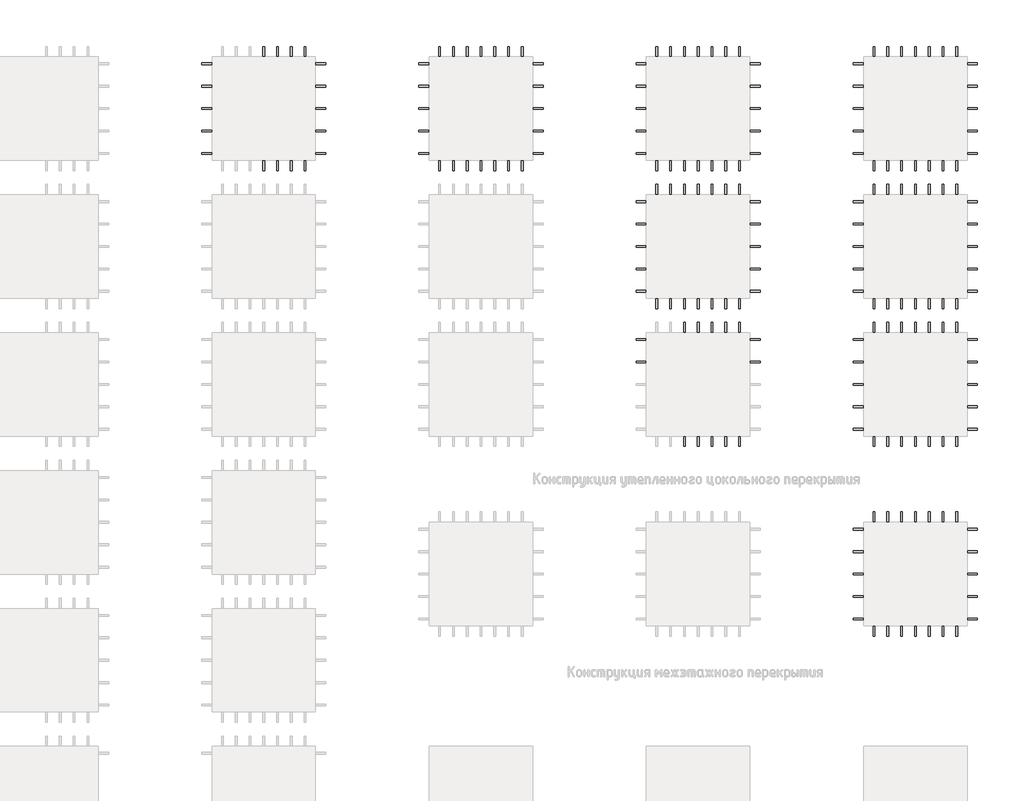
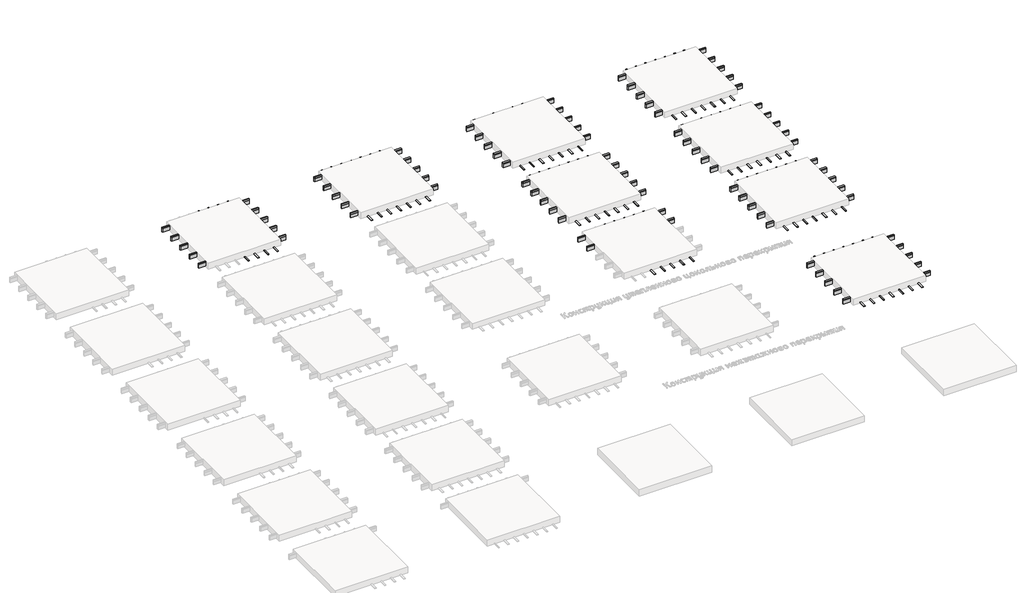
# One storey, part 6 of 42: 142 beams.
"""IFC4 building model written with IfcOpenShell, lengths in millimetres."""

from ifc_helpers import new_model, si_unit, origin, place, context, project, spatial, transform, mapped, element, save
from components import beam_10aa4ee0, beam_54a566a4, beam_d9e12bf5

model = new_model("IFC4")

# Units and contexts
model_context = context("Model", 3, world=origin())
ifc_project = project(units=[si_unit("LENGTHUNIT", "METRE", prefix="MILLI")], contexts=[model_context])

# Site, building, storey
site = spatial("IfcSite", under=ifc_project)
building = spatial("IfcBuilding", under=site)
storey = spatial("IfcBuildingStorey", under=building, Name="Этаж 01", Elevation=0.0)

# Beams
placement = place(None, origin())
beam_shape = beam_10aa4ee0(model_context)
element("IfcBeam", 1, ObjectType="Деревянный брус : 50х150", at=placement, inside=storey, context=model_context, shape_type="MappedRepresentation", body=[
    mapped(beam_shape, transform((67113.2067679, -37226.7844763, -151.0), x_axis=(-1.0, 0.0, 0.0), y_axis=(0.0, -1.0, 0.0), z_axis=(0.0, 0.0, 1.0))),
])
element("IfcBeam", 2, ObjectType="Деревянный брус : 50х150", at=placement, inside=storey, context=model_context, shape_type="MappedRepresentation", body=[
    mapped(beam_shape, transform((67113.2067679, -36576.7844763, -151.0), x_axis=(-1.0, 0.0, 0.0), y_axis=(0.0, -1.0, 0.0), z_axis=(0.0, 0.0, 1.0))),
])
element("IfcBeam", 3, ObjectType="Деревянный брус : 50х150", at=placement, inside=storey, context=model_context, shape_type="MappedRepresentation", body=[
    mapped(beam_shape, transform((67113.2067679, -35926.7844763, -151.0), x_axis=(-1.0, 0.0, 0.0), y_axis=(0.0, -1.0, 0.0), z_axis=(0.0, 0.0, 1.0))),
])
element("IfcBeam", 4, ObjectType="Деревянный брус : 50х150", at=placement, inside=storey, context=model_context, shape_type="MappedRepresentation", body=[
    mapped(beam_shape, transform((67113.2067679, -35276.7844763, -151.0), x_axis=(-1.0, 0.0, 0.0), y_axis=(0.0, -1.0, 0.0), z_axis=(0.0, 0.0, 1.0))),
])
element("IfcBeam", 5, ObjectType="Деревянный брус : 50х150", at=placement, inside=storey, context=model_context, shape_type="MappedRepresentation", body=[
    mapped(beam_shape, transform((67113.2067679, -34626.7844763, -151.0), x_axis=(-1.0, 0.0, 0.0), y_axis=(0.0, -1.0, 0.0), z_axis=(0.0, 0.0, 1.0))),
])
element("IfcBeam", 6, ObjectType="Деревянный брус : 50х150", at=placement, inside=storey, context=model_context, shape_type="MappedRepresentation", body=[
    mapped(beam_shape, transform((48213.2067679, -23726.7844763, -151.0), x_axis=(-1.0, 0.0, 0.0), y_axis=(0.0, -1.0, 0.0), z_axis=(0.0, 0.0, 1.0))),
])
element("IfcBeam", 7, ObjectType="Деревянный брус : 50х150", at=placement, inside=storey, context=model_context, shape_type="MappedRepresentation", body=[
    mapped(beam_shape, transform((48213.2067679, -23076.7844763, -151.0), x_axis=(-1.0, 0.0, 0.0), y_axis=(0.0, -1.0, 0.0), z_axis=(0.0, 0.0, 1.0))),
])
element("IfcBeam", 8, ObjectType="Деревянный брус : 50х150", at=placement, inside=storey, context=model_context, shape_type="MappedRepresentation", body=[
    mapped(beam_shape, transform((48213.2067679, -22426.7844763, -151.0), x_axis=(-1.0, 0.0, 0.0), y_axis=(0.0, -1.0, 0.0), z_axis=(0.0, 0.0, 1.0))),
])
element("IfcBeam", 9, ObjectType="Деревянный брус : 50х150", at=placement, inside=storey, context=model_context, shape_type="MappedRepresentation", body=[
    mapped(beam_shape, transform((48213.2067679, -21776.7844763, -151.0), x_axis=(-1.0, 0.0, 0.0), y_axis=(0.0, -1.0, 0.0), z_axis=(0.0, 0.0, 1.0))),
])
element("IfcBeam", 10, ObjectType="Деревянный брус : 50х150", at=placement, inside=storey, context=model_context, shape_type="MappedRepresentation", body=[
    mapped(beam_shape, transform((48213.2067679, -21126.7844763, -151.0), x_axis=(-1.0, 0.0, 0.0), y_axis=(0.0, -1.0, 0.0), z_axis=(0.0, 0.0, 1.0))),
])
element("IfcBeam", 11, ObjectType="Деревянный брус : 50х150", at=placement, inside=storey, context=model_context, shape_type="MappedRepresentation", body=[
    mapped(beam_shape, transform((54513.2067679, -23726.7844763, -151.0), x_axis=(-1.0, 0.0, 0.0), y_axis=(0.0, -1.0, 0.0), z_axis=(0.0, 0.0, 1.0))),
])
element("IfcBeam", 12, ObjectType="Деревянный брус : 50х150", at=placement, inside=storey, context=model_context, shape_type="MappedRepresentation", body=[
    mapped(beam_shape, transform((54513.2067679, -23076.7844763, -151.0), x_axis=(-1.0, 0.0, 0.0), y_axis=(0.0, -1.0, 0.0), z_axis=(0.0, 0.0, 1.0))),
])
element("IfcBeam", 13, ObjectType="Деревянный брус : 50х150", at=placement, inside=storey, context=model_context, shape_type="MappedRepresentation", body=[
    mapped(beam_shape, transform((54513.2067679, -22426.7844763, -151.0), x_axis=(-1.0, 0.0, 0.0), y_axis=(0.0, -1.0, 0.0), z_axis=(0.0, 0.0, 1.0))),
])
element("IfcBeam", 14, ObjectType="Деревянный брус : 50х150", at=placement, inside=storey, context=model_context, shape_type="MappedRepresentation", body=[
    mapped(beam_shape, transform((54513.2067679, -21776.7844763, -151.0), x_axis=(-1.0, 0.0, 0.0), y_axis=(0.0, -1.0, 0.0), z_axis=(0.0, 0.0, 1.0))),
])
element("IfcBeam", 15, ObjectType="Деревянный брус : 50х150", at=placement, inside=storey, context=model_context, shape_type="MappedRepresentation", body=[
    mapped(beam_shape, transform((54513.2067679, -21126.7844763, -151.0), x_axis=(-1.0, 0.0, 0.0), y_axis=(0.0, -1.0, 0.0), z_axis=(0.0, 0.0, 1.0))),
])
element("IfcBeam", 16, ObjectType="Деревянный брус : 50х150", at=placement, inside=storey, context=model_context, shape_type="MappedRepresentation", body=[
    mapped(beam_shape, transform((60813.2067679, -29776.7844763, -151.0), x_axis=(-1.0, 0.0, 0.0), y_axis=(0.0, -1.0, 0.0), z_axis=(0.0, 0.0, 1.0))),
])
element("IfcBeam", 17, ObjectType="Деревянный брус : 50х150", at=placement, inside=storey, context=model_context, shape_type="MappedRepresentation", body=[
    mapped(beam_shape, transform((60813.2067679, -29126.7844763, -151.0), x_axis=(-1.0, 0.0, 0.0), y_axis=(0.0, -1.0, 0.0), z_axis=(0.0, 0.0, 1.0))),
])
element("IfcBeam", 18, ObjectType="Деревянный брус : 50х150", at=placement, inside=storey, context=model_context, shape_type="MappedRepresentation", body=[
    mapped(beam_shape, transform((60813.2067679, -27726.7844763, -151.0), x_axis=(-1.0, 0.0, 0.0), y_axis=(0.0, -1.0, 0.0), z_axis=(0.0, 0.0, 1.0))),
])
element("IfcBeam", 19, ObjectType="Деревянный брус : 50х150", at=placement, inside=storey, context=model_context, shape_type="MappedRepresentation", body=[
    mapped(beam_shape, transform((60813.2067679, -27076.7844763, -151.0), x_axis=(-1.0, 0.0, 0.0), y_axis=(0.0, -1.0, 0.0), z_axis=(0.0, 0.0, 1.0))),
])
element("IfcBeam", 20, ObjectType="Деревянный брус : 50х150", at=placement, inside=storey, context=model_context, shape_type="MappedRepresentation", body=[
    mapped(beam_shape, transform((60813.2067679, -26426.7844763, -151.0), x_axis=(-1.0, 0.0, 0.0), y_axis=(0.0, -1.0, 0.0), z_axis=(0.0, 0.0, 1.0))),
])
element("IfcBeam", 21, ObjectType="Деревянный брус : 50х150", at=placement, inside=storey, context=model_context, shape_type="MappedRepresentation", body=[
    mapped(beam_shape, transform((60813.2067679, -25776.7844763, -151.0), x_axis=(-1.0, 0.0, 0.0), y_axis=(0.0, -1.0, 0.0), z_axis=(0.0, 0.0, 1.0))),
])
element("IfcBeam", 22, ObjectType="Деревянный брус : 50х150", at=placement, inside=storey, context=model_context, shape_type="MappedRepresentation", body=[
    mapped(beam_shape, transform((60813.2067679, -25126.7844763, -151.0), x_axis=(-1.0, 0.0, 0.0), y_axis=(0.0, -1.0, 0.0), z_axis=(0.0, 0.0, 1.0))),
])
element("IfcBeam", 23, ObjectType="Деревянный брус : 50х150", at=placement, inside=storey, context=model_context, shape_type="MappedRepresentation", body=[
    mapped(beam_shape, transform((60813.2067679, -23726.7844763, -151.0), x_axis=(-1.0, 0.0, 0.0), y_axis=(0.0, -1.0, 0.0), z_axis=(0.0, 0.0, 1.0))),
])
element("IfcBeam", 24, ObjectType="Деревянный брус : 50х150", at=placement, inside=storey, context=model_context, shape_type="MappedRepresentation", body=[
    mapped(beam_shape, transform((60813.2067679, -23076.7844763, -151.0), x_axis=(-1.0, 0.0, 0.0), y_axis=(0.0, -1.0, 0.0), z_axis=(0.0, 0.0, 1.0))),
])
element("IfcBeam", 25, ObjectType="Деревянный брус : 50х150", at=placement, inside=storey, context=model_context, shape_type="MappedRepresentation", body=[
    mapped(beam_shape, transform((60813.2067679, -22426.7844763, -151.0), x_axis=(-1.0, 0.0, 0.0), y_axis=(0.0, -1.0, 0.0), z_axis=(0.0, 0.0, 1.0))),
])
element("IfcBeam", 26, ObjectType="Деревянный брус : 50х150", at=placement, inside=storey, context=model_context, shape_type="MappedRepresentation", body=[
    mapped(beam_shape, transform((60813.2067679, -21776.7844763, -151.0), x_axis=(-1.0, 0.0, 0.0), y_axis=(0.0, -1.0, 0.0), z_axis=(0.0, 0.0, 1.0))),
])
element("IfcBeam", 27, ObjectType="Деревянный брус : 50х150", at=placement, inside=storey, context=model_context, shape_type="MappedRepresentation", body=[
    mapped(beam_shape, transform((60813.2067679, -21126.7844763, -151.0), x_axis=(-1.0, 0.0, 0.0), y_axis=(0.0, -1.0, 0.0), z_axis=(0.0, 0.0, 1.0))),
])
element("IfcBeam", 28, ObjectType="Деревянный брус : 50х150", at=placement, inside=storey, context=model_context, shape_type="MappedRepresentation", body=[
    mapped(beam_shape, transform((67113.2067679, -31726.7844763, -151.0), x_axis=(-1.0, 0.0, 0.0), y_axis=(0.0, -1.0, 0.0), z_axis=(0.0, 0.0, 1.0))),
])
element("IfcBeam", 29, ObjectType="Деревянный брус : 50х150", at=placement, inside=storey, context=model_context, shape_type="MappedRepresentation", body=[
    mapped(beam_shape, transform((67113.2067679, -31076.7844763, -151.0), x_axis=(-1.0, 0.0, 0.0), y_axis=(0.0, -1.0, 0.0), z_axis=(0.0, 0.0, 1.0))),
])
element("IfcBeam", 30, ObjectType="Деревянный брус : 50х150", at=placement, inside=storey, context=model_context, shape_type="MappedRepresentation", body=[
    mapped(beam_shape, transform((67113.2067679, -30426.7844763, -151.0), x_axis=(-1.0, 0.0, 0.0), y_axis=(0.0, -1.0, 0.0), z_axis=(0.0, 0.0, 1.0))),
])
element("IfcBeam", 31, ObjectType="Деревянный брус : 50х150", at=placement, inside=storey, context=model_context, shape_type="MappedRepresentation", body=[
    mapped(beam_shape, transform((67113.2067679, -29776.7844763, -151.0), x_axis=(-1.0, 0.0, 0.0), y_axis=(0.0, -1.0, 0.0), z_axis=(0.0, 0.0, 1.0))),
])
element("IfcBeam", 32, ObjectType="Деревянный брус : 50х150", at=placement, inside=storey, context=model_context, shape_type="MappedRepresentation", body=[
    mapped(beam_shape, transform((67113.2067679, -29126.7844763, -151.0), x_axis=(-1.0, 0.0, 0.0), y_axis=(0.0, -1.0, 0.0), z_axis=(0.0, 0.0, 1.0))),
])
element("IfcBeam", 33, ObjectType="Деревянный брус : 50х150", at=placement, inside=storey, context=model_context, shape_type="MappedRepresentation", body=[
    mapped(beam_shape, transform((67113.2067679, -27726.7844763, -151.0), x_axis=(-1.0, 0.0, 0.0), y_axis=(0.0, -1.0, 0.0), z_axis=(0.0, 0.0, 1.0))),
])
element("IfcBeam", 34, ObjectType="Деревянный брус : 50х150", at=placement, inside=storey, context=model_context, shape_type="MappedRepresentation", body=[
    mapped(beam_shape, transform((67113.2067679, -27076.7844763, -151.0), x_axis=(-1.0, 0.0, 0.0), y_axis=(0.0, -1.0, 0.0), z_axis=(0.0, 0.0, 1.0))),
])
element("IfcBeam", 35, ObjectType="Деревянный брус : 50х150", at=placement, inside=storey, context=model_context, shape_type="MappedRepresentation", body=[
    mapped(beam_shape, transform((67113.2067679, -26426.7844763, -151.0), x_axis=(-1.0, 0.0, 0.0), y_axis=(0.0, -1.0, 0.0), z_axis=(0.0, 0.0, 1.0))),
])
element("IfcBeam", 36, ObjectType="Деревянный брус : 50х150", at=placement, inside=storey, context=model_context, shape_type="MappedRepresentation", body=[
    mapped(beam_shape, transform((67113.2067679, -25776.7844763, -151.0), x_axis=(-1.0, 0.0, 0.0), y_axis=(0.0, -1.0, 0.0), z_axis=(0.0, 0.0, 1.0))),
])
element("IfcBeam", 37, ObjectType="Деревянный брус : 50х150", at=placement, inside=storey, context=model_context, shape_type="MappedRepresentation", body=[
    mapped(beam_shape, transform((67113.2067679, -25126.7844763, -151.0), x_axis=(-1.0, 0.0, 0.0), y_axis=(0.0, -1.0, 0.0), z_axis=(0.0, 0.0, 1.0))),
])
element("IfcBeam", 38, ObjectType="Деревянный брус : 50х150", at=placement, inside=storey, context=model_context, shape_type="MappedRepresentation", body=[
    mapped(beam_shape, transform((67113.2067679, -23726.7844763, -151.0), x_axis=(-1.0, 0.0, 0.0), y_axis=(0.0, -1.0, 0.0), z_axis=(0.0, 0.0, 1.0))),
])
element("IfcBeam", 39, ObjectType="Деревянный брус : 50х150", at=placement, inside=storey, context=model_context, shape_type="MappedRepresentation", body=[
    mapped(beam_shape, transform((67113.2067679, -23076.7844763, -151.0), x_axis=(-1.0, 0.0, 0.0), y_axis=(0.0, -1.0, 0.0), z_axis=(0.0, 0.0, 1.0))),
])
element("IfcBeam", 40, ObjectType="Деревянный брус : 50х150", at=placement, inside=storey, context=model_context, shape_type="MappedRepresentation", body=[
    mapped(beam_shape, transform((67113.2067679, -22426.7844763, -151.0), x_axis=(-1.0, 0.0, 0.0), y_axis=(0.0, -1.0, 0.0), z_axis=(0.0, 0.0, 1.0))),
])
element("IfcBeam", 41, ObjectType="Деревянный брус : 50х150", at=placement, inside=storey, context=model_context, shape_type="MappedRepresentation", body=[
    mapped(beam_shape, transform((67113.2067679, -21776.7844763, -151.0), x_axis=(-1.0, 0.0, 0.0), y_axis=(0.0, -1.0, 0.0), z_axis=(0.0, 0.0, 1.0))),
])
element("IfcBeam", 42, ObjectType="Деревянный брус : 50х150", at=placement, inside=storey, context=model_context, shape_type="MappedRepresentation", body=[
    mapped(beam_shape, transform((67113.2067679, -21126.7844763, -151.0), x_axis=(-1.0, 0.0, 0.0), y_axis=(0.0, -1.0, 0.0), z_axis=(0.0, 0.0, 1.0))),
])
beam_2_shape = beam_54a566a4(model_context)
element("IfcBeam", 43, ObjectType="Деревянный брус : 50х50", at=placement, inside=storey, context=model_context, shape_type="MappedRepresentation", body=[
    mapped(beam_2_shape, transform((67113.2067679, -37226.7844763, -50.0), x_axis=(-1.0, 0.0, 0.0), y_axis=(0.0, -1.0, 0.0), z_axis=(0.0, 0.0, 1.0))),
])
element("IfcBeam", 44, ObjectType="Деревянный брус : 50х50", at=placement, inside=storey, context=model_context, shape_type="MappedRepresentation", body=[
    mapped(beam_2_shape, transform((67113.2067679, -36576.7844763, -50.0), x_axis=(-1.0, 0.0, 0.0), y_axis=(0.0, -1.0, 0.0), z_axis=(0.0, 0.0, 1.0))),
])
element("IfcBeam", 45, ObjectType="Деревянный брус : 50х50", at=placement, inside=storey, context=model_context, shape_type="MappedRepresentation", body=[
    mapped(beam_2_shape, transform((67113.2067679, -35926.7844763, -50.0), x_axis=(-1.0, 0.0, 0.0), y_axis=(0.0, -1.0, 0.0), z_axis=(0.0, 0.0, 1.0))),
])
element("IfcBeam", 46, ObjectType="Деревянный брус : 50х50", at=placement, inside=storey, context=model_context, shape_type="MappedRepresentation", body=[
    mapped(beam_2_shape, transform((67113.2067679, -35276.7844763, -50.0), x_axis=(-1.0, 0.0, 0.0), y_axis=(0.0, -1.0, 0.0), z_axis=(0.0, 0.0, 1.0))),
])
element("IfcBeam", 47, ObjectType="Деревянный брус : 50х50", at=placement, inside=storey, context=model_context, shape_type="MappedRepresentation", body=[
    mapped(beam_2_shape, transform((67113.2067679, -34626.7844763, -50.0), x_axis=(-1.0, 0.0, 0.0), y_axis=(0.0, -1.0, 0.0), z_axis=(0.0, 0.0, 1.0))),
])
element("IfcBeam", 48, ObjectType="Деревянный брус : 50х50", at=placement, inside=storey, context=model_context, shape_type="MappedRepresentation", body=[
    mapped(beam_2_shape, transform((48213.2067679, -23726.7844763, -50.0), x_axis=(-1.0, 0.0, 0.0), y_axis=(0.0, -1.0, 0.0), z_axis=(0.0, 0.0, 1.0))),
])
element("IfcBeam", 49, ObjectType="Деревянный брус : 50х50", at=placement, inside=storey, context=model_context, shape_type="MappedRepresentation", body=[
    mapped(beam_2_shape, transform((48213.2067679, -23076.7844763, -50.0), x_axis=(-1.0, 0.0, 0.0), y_axis=(0.0, -1.0, 0.0), z_axis=(0.0, 0.0, 1.0))),
])
element("IfcBeam", 50, ObjectType="Деревянный брус : 50х50", at=placement, inside=storey, context=model_context, shape_type="MappedRepresentation", body=[
    mapped(beam_2_shape, transform((48213.2067679, -22426.7844763, -50.0), x_axis=(-1.0, 0.0, 0.0), y_axis=(0.0, -1.0, 0.0), z_axis=(0.0, 0.0, 1.0))),
])
element("IfcBeam", 51, ObjectType="Деревянный брус : 50х50", at=placement, inside=storey, context=model_context, shape_type="MappedRepresentation", body=[
    mapped(beam_2_shape, transform((48213.2067679, -21776.7844763, -50.0), x_axis=(-1.0, 0.0, 0.0), y_axis=(0.0, -1.0, 0.0), z_axis=(0.0, 0.0, 1.0))),
])
element("IfcBeam", 52, ObjectType="Деревянный брус : 50х50", at=placement, inside=storey, context=model_context, shape_type="MappedRepresentation", body=[
    mapped(beam_2_shape, transform((48213.2067679, -21126.7844763, -50.0), x_axis=(-1.0, 0.0, 0.0), y_axis=(0.0, -1.0, 0.0), z_axis=(0.0, 0.0, 1.0))),
])
element("IfcBeam", 53, ObjectType="Деревянный брус : 50х50", at=placement, inside=storey, context=model_context, shape_type="MappedRepresentation", body=[
    mapped(beam_2_shape, transform((54513.2067679, -23726.7844763, -50.0), x_axis=(-1.0, 0.0, 0.0), y_axis=(0.0, -1.0, 0.0), z_axis=(0.0, 0.0, 1.0))),
])
element("IfcBeam", 54, ObjectType="Деревянный брус : 50х50", at=placement, inside=storey, context=model_context, shape_type="MappedRepresentation", body=[
    mapped(beam_2_shape, transform((54513.2067679, -23076.7844763, -50.0), x_axis=(-1.0, 0.0, 0.0), y_axis=(0.0, -1.0, 0.0), z_axis=(0.0, 0.0, 1.0))),
])
element("IfcBeam", 55, ObjectType="Деревянный брус : 50х50", at=placement, inside=storey, context=model_context, shape_type="MappedRepresentation", body=[
    mapped(beam_2_shape, transform((54513.2067679, -22426.7844763, -50.0), x_axis=(-1.0, 0.0, 0.0), y_axis=(0.0, -1.0, 0.0), z_axis=(0.0, 0.0, 1.0))),
])
element("IfcBeam", 56, ObjectType="Деревянный брус : 50х50", at=placement, inside=storey, context=model_context, shape_type="MappedRepresentation", body=[
    mapped(beam_2_shape, transform((54513.2067679, -21776.7844763, -50.0), x_axis=(-1.0, 0.0, 0.0), y_axis=(0.0, -1.0, 0.0), z_axis=(0.0, 0.0, 1.0))),
])
element("IfcBeam", 57, ObjectType="Деревянный брус : 50х50", at=placement, inside=storey, context=model_context, shape_type="MappedRepresentation", body=[
    mapped(beam_2_shape, transform((54513.2067679, -21126.7844763, -50.0), x_axis=(-1.0, 0.0, 0.0), y_axis=(0.0, -1.0, 0.0), z_axis=(0.0, 0.0, 1.0))),
])
element("IfcBeam", 58, ObjectType="Деревянный брус : 50х50", at=placement, inside=storey, context=model_context, shape_type="MappedRepresentation", body=[
    mapped(beam_2_shape, transform((60813.2067679, -29776.7844763, -50.0), x_axis=(-1.0, 0.0, 0.0), y_axis=(0.0, -1.0, 0.0), z_axis=(0.0, 0.0, 1.0))),
])
element("IfcBeam", 59, ObjectType="Деревянный брус : 50х50", at=placement, inside=storey, context=model_context, shape_type="MappedRepresentation", body=[
    mapped(beam_2_shape, transform((60813.2067679, -29126.7844763, -50.0), x_axis=(-1.0, 0.0, 0.0), y_axis=(0.0, -1.0, 0.0), z_axis=(0.0, 0.0, 1.0))),
])
element("IfcBeam", 60, ObjectType="Деревянный брус : 50х50", at=placement, inside=storey, context=model_context, shape_type="MappedRepresentation", body=[
    mapped(beam_2_shape, transform((60813.2067679, -27726.7844763, -50.0), x_axis=(-1.0, 0.0, 0.0), y_axis=(0.0, -1.0, 0.0), z_axis=(0.0, 0.0, 1.0))),
])
element("IfcBeam", 61, ObjectType="Деревянный брус : 50х50", at=placement, inside=storey, context=model_context, shape_type="MappedRepresentation", body=[
    mapped(beam_2_shape, transform((60813.2067679, -27076.7844763, -50.0), x_axis=(-1.0, 0.0, 0.0), y_axis=(0.0, -1.0, 0.0), z_axis=(0.0, 0.0, 1.0))),
])
element("IfcBeam", 62, ObjectType="Деревянный брус : 50х50", at=placement, inside=storey, context=model_context, shape_type="MappedRepresentation", body=[
    mapped(beam_2_shape, transform((60813.2067679, -26426.7844763, -50.0), x_axis=(-1.0, 0.0, 0.0), y_axis=(0.0, -1.0, 0.0), z_axis=(0.0, 0.0, 1.0))),
])
element("IfcBeam", 63, ObjectType="Деревянный брус : 50х50", at=placement, inside=storey, context=model_context, shape_type="MappedRepresentation", body=[
    mapped(beam_2_shape, transform((60813.2067679, -25776.7844763, -50.0), x_axis=(-1.0, 0.0, 0.0), y_axis=(0.0, -1.0, 0.0), z_axis=(0.0, 0.0, 1.0))),
])
element("IfcBeam", 64, ObjectType="Деревянный брус : 50х50", at=placement, inside=storey, context=model_context, shape_type="MappedRepresentation", body=[
    mapped(beam_2_shape, transform((60813.2067679, -25126.7844763, -50.0), x_axis=(-1.0, 0.0, 0.0), y_axis=(0.0, -1.0, 0.0), z_axis=(0.0, 0.0, 1.0))),
])
element("IfcBeam", 65, ObjectType="Деревянный брус : 50х50", at=placement, inside=storey, context=model_context, shape_type="MappedRepresentation", body=[
    mapped(beam_2_shape, transform((60813.2067679, -23726.7844763, -50.0), x_axis=(-1.0, 0.0, 0.0), y_axis=(0.0, -1.0, 0.0), z_axis=(0.0, 0.0, 1.0))),
])
element("IfcBeam", 66, ObjectType="Деревянный брус : 50х50", at=placement, inside=storey, context=model_context, shape_type="MappedRepresentation", body=[
    mapped(beam_2_shape, transform((60813.2067679, -23076.7844763, -50.0), x_axis=(-1.0, 0.0, 0.0), y_axis=(0.0, -1.0, 0.0), z_axis=(0.0, 0.0, 1.0))),
])
element("IfcBeam", 67, ObjectType="Деревянный брус : 50х50", at=placement, inside=storey, context=model_context, shape_type="MappedRepresentation", body=[
    mapped(beam_2_shape, transform((60813.2067679, -22426.7844763, -50.0), x_axis=(-1.0, 0.0, 0.0), y_axis=(0.0, -1.0, 0.0), z_axis=(0.0, 0.0, 1.0))),
])
element("IfcBeam", 68, ObjectType="Деревянный брус : 50х50", at=placement, inside=storey, context=model_context, shape_type="MappedRepresentation", body=[
    mapped(beam_2_shape, transform((60813.2067679, -21776.7844763, -50.0), x_axis=(-1.0, 0.0, 0.0), y_axis=(0.0, -1.0, 0.0), z_axis=(0.0, 0.0, 1.0))),
])
element("IfcBeam", 69, ObjectType="Деревянный брус : 50х50", at=placement, inside=storey, context=model_context, shape_type="MappedRepresentation", body=[
    mapped(beam_2_shape, transform((60813.2067679, -21126.7844763, -50.0), x_axis=(-1.0, 0.0, 0.0), y_axis=(0.0, -1.0, 0.0), z_axis=(0.0, 0.0, 1.0))),
])
element("IfcBeam", 70, ObjectType="Деревянный брус : 50х50", at=placement, inside=storey, context=model_context, shape_type="MappedRepresentation", body=[
    mapped(beam_2_shape, transform((67113.2067679, -31726.7844763, -50.0), x_axis=(-1.0, 0.0, 0.0), y_axis=(0.0, -1.0, 0.0), z_axis=(0.0, 0.0, 1.0))),
])
element("IfcBeam", 71, ObjectType="Деревянный брус : 50х50", at=placement, inside=storey, context=model_context, shape_type="MappedRepresentation", body=[
    mapped(beam_2_shape, transform((67113.2067679, -31076.7844763, -50.0), x_axis=(-1.0, 0.0, 0.0), y_axis=(0.0, -1.0, 0.0), z_axis=(0.0, 0.0, 1.0))),
])
element("IfcBeam", 72, ObjectType="Деревянный брус : 50х50", at=placement, inside=storey, context=model_context, shape_type="MappedRepresentation", body=[
    mapped(beam_2_shape, transform((67113.2067679, -30426.7844763, -50.0), x_axis=(-1.0, 0.0, 0.0), y_axis=(0.0, -1.0, 0.0), z_axis=(0.0, 0.0, 1.0))),
])
element("IfcBeam", 73, ObjectType="Деревянный брус : 50х50", at=placement, inside=storey, context=model_context, shape_type="MappedRepresentation", body=[
    mapped(beam_2_shape, transform((67113.2067679, -29776.7844763, -50.0), x_axis=(-1.0, 0.0, 0.0), y_axis=(0.0, -1.0, 0.0), z_axis=(0.0, 0.0, 1.0))),
])
element("IfcBeam", 74, ObjectType="Деревянный брус : 50х50", at=placement, inside=storey, context=model_context, shape_type="MappedRepresentation", body=[
    mapped(beam_2_shape, transform((67113.2067679, -29126.7844763, -50.0), x_axis=(-1.0, 0.0, 0.0), y_axis=(0.0, -1.0, 0.0), z_axis=(0.0, 0.0, 1.0))),
])
element("IfcBeam", 75, ObjectType="Деревянный брус : 50х50", at=placement, inside=storey, context=model_context, shape_type="MappedRepresentation", body=[
    mapped(beam_2_shape, transform((67113.2067679, -27726.7844763, -50.0), x_axis=(-1.0, 0.0, 0.0), y_axis=(0.0, -1.0, 0.0), z_axis=(0.0, 0.0, 1.0))),
])
element("IfcBeam", 76, ObjectType="Деревянный брус : 50х50", at=placement, inside=storey, context=model_context, shape_type="MappedRepresentation", body=[
    mapped(beam_2_shape, transform((67113.2067679, -27076.7844763, -50.0), x_axis=(-1.0, 0.0, 0.0), y_axis=(0.0, -1.0, 0.0), z_axis=(0.0, 0.0, 1.0))),
])
element("IfcBeam", 77, ObjectType="Деревянный брус : 50х50", at=placement, inside=storey, context=model_context, shape_type="MappedRepresentation", body=[
    mapped(beam_2_shape, transform((67113.2067679, -26426.7844763, -50.0), x_axis=(-1.0, 0.0, 0.0), y_axis=(0.0, -1.0, 0.0), z_axis=(0.0, 0.0, 1.0))),
])
element("IfcBeam", 78, ObjectType="Деревянный брус : 50х50", at=placement, inside=storey, context=model_context, shape_type="MappedRepresentation", body=[
    mapped(beam_2_shape, transform((67113.2067679, -25776.7844763, -50.0), x_axis=(-1.0, 0.0, 0.0), y_axis=(0.0, -1.0, 0.0), z_axis=(0.0, 0.0, 1.0))),
])
element("IfcBeam", 79, ObjectType="Деревянный брус : 50х50", at=placement, inside=storey, context=model_context, shape_type="MappedRepresentation", body=[
    mapped(beam_2_shape, transform((67113.2067679, -25126.7844763, -50.0), x_axis=(-1.0, 0.0, 0.0), y_axis=(0.0, -1.0, 0.0), z_axis=(0.0, 0.0, 1.0))),
])
element("IfcBeam", 80, ObjectType="Деревянный брус : 50х50", at=placement, inside=storey, context=model_context, shape_type="MappedRepresentation", body=[
    mapped(beam_2_shape, transform((67113.2067679, -23726.7844763, -50.0), x_axis=(-1.0, 0.0, 0.0), y_axis=(0.0, -1.0, 0.0), z_axis=(0.0, 0.0, 1.0))),
])
element("IfcBeam", 81, ObjectType="Деревянный брус : 50х50", at=placement, inside=storey, context=model_context, shape_type="MappedRepresentation", body=[
    mapped(beam_2_shape, transform((67113.2067679, -23076.7844763, -50.0), x_axis=(-1.0, 0.0, 0.0), y_axis=(0.0, -1.0, 0.0), z_axis=(0.0, 0.0, 1.0))),
])
element("IfcBeam", 82, ObjectType="Деревянный брус : 50х50", at=placement, inside=storey, context=model_context, shape_type="MappedRepresentation", body=[
    mapped(beam_2_shape, transform((67113.2067679, -22426.7844763, -50.0), x_axis=(-1.0, 0.0, 0.0), y_axis=(0.0, -1.0, 0.0), z_axis=(0.0, 0.0, 1.0))),
])
element("IfcBeam", 83, ObjectType="Деревянный брус : 50х50", at=placement, inside=storey, context=model_context, shape_type="MappedRepresentation", body=[
    mapped(beam_2_shape, transform((67113.2067679, -21776.7844763, -50.0), x_axis=(-1.0, 0.0, 0.0), y_axis=(0.0, -1.0, 0.0), z_axis=(0.0, 0.0, 1.0))),
])
element("IfcBeam", 84, ObjectType="Деревянный брус : 50х50", at=placement, inside=storey, context=model_context, shape_type="MappedRepresentation", body=[
    mapped(beam_2_shape, transform((67113.2067679, -21126.7844763, -50.0), x_axis=(-1.0, 0.0, 0.0), y_axis=(0.0, -1.0, 0.0), z_axis=(0.0, 0.0, 1.0))),
])
beam_3_shape = beam_d9e12bf5(model_context)
element("IfcBeam", 85, ObjectType="Деревянный брус : 50х25", at=placement, inside=storey, context=model_context, shape_type="MappedRepresentation", body=[
    mapped(beam_3_shape, transform((65913.2067679, -35926.7844763, -239.5), x_axis=(0.0, 1.0, 0.0), y_axis=(-1.0, 0.0, 0.0), z_axis=(0.0, 0.0, 1.0))),
])
element("IfcBeam", 86, ObjectType="Деревянный брус : 50х25", at=placement, inside=storey, context=model_context, shape_type="MappedRepresentation", body=[
    mapped(beam_3_shape, transform((66313.2067679, -35926.7844763, -239.5), x_axis=(0.0, 1.0, 0.0), y_axis=(-1.0, 0.0, 0.0), z_axis=(0.0, 0.0, 1.0))),
])
element("IfcBeam", 87, ObjectType="Деревянный брус : 50х25", at=placement, inside=storey, context=model_context, shape_type="MappedRepresentation", body=[
    mapped(beam_3_shape, transform((66713.2067679, -35926.7844763, -239.5), x_axis=(0.0, 1.0, 0.0), y_axis=(-1.0, 0.0, 0.0), z_axis=(0.0, 0.0, 1.0))),
])
element("IfcBeam", 88, ObjectType="Деревянный брус : 50х25", at=placement, inside=storey, context=model_context, shape_type="MappedRepresentation", body=[
    mapped(beam_3_shape, transform((67113.2067679, -35926.7844763, -239.5), x_axis=(0.0, 1.0, 0.0), y_axis=(-1.0, 0.0, 0.0), z_axis=(0.0, 0.0, 1.0))),
])
element("IfcBeam", 89, ObjectType="Деревянный брус : 50х25", at=placement, inside=storey, context=model_context, shape_type="MappedRepresentation", body=[
    mapped(beam_3_shape, transform((67513.2067679, -35926.7844763, -239.5), x_axis=(0.0, 1.0, 0.0), y_axis=(-1.0, 0.0, 0.0), z_axis=(0.0, 0.0, 1.0))),
])
element("IfcBeam", 90, ObjectType="Деревянный брус : 50х25", at=placement, inside=storey, context=model_context, shape_type="MappedRepresentation", body=[
    mapped(beam_3_shape, transform((67913.2067679, -35926.7844763, -239.5), x_axis=(0.0, 1.0, 0.0), y_axis=(-1.0, 0.0, 0.0), z_axis=(0.0, 0.0, 1.0))),
])
element("IfcBeam", 91, ObjectType="Деревянный брус : 50х25", at=placement, inside=storey, context=model_context, shape_type="MappedRepresentation", body=[
    mapped(beam_3_shape, transform((68313.2067679, -35926.7844763, -239.5), x_axis=(0.0, 1.0, 0.0), y_axis=(-1.0, 0.0, 0.0), z_axis=(0.0, 0.0, 1.0))),
])
element("IfcBeam", 92, ObjectType="Деревянный брус : 50х25", at=placement, inside=storey, context=model_context, shape_type="MappedRepresentation", body=[
    mapped(beam_3_shape, transform((48213.2067679, -22426.7844763, -239.5), x_axis=(0.0, 1.0, 0.0), y_axis=(-1.0, 0.0, 0.0), z_axis=(0.0, 0.0, 1.0))),
])
element("IfcBeam", 93, ObjectType="Деревянный брус : 50х25", at=placement, inside=storey, context=model_context, shape_type="MappedRepresentation", body=[
    mapped(beam_3_shape, transform((48613.2067679, -22426.7844763, -239.5), x_axis=(0.0, 1.0, 0.0), y_axis=(-1.0, 0.0, 0.0), z_axis=(0.0, 0.0, 1.0))),
])
element("IfcBeam", 94, ObjectType="Деревянный брус : 50х25", at=placement, inside=storey, context=model_context, shape_type="MappedRepresentation", body=[
    mapped(beam_3_shape, transform((49013.2067679, -22426.7844763, -239.5), x_axis=(0.0, 1.0, 0.0), y_axis=(-1.0, 0.0, 0.0), z_axis=(0.0, 0.0, 1.0))),
])
element("IfcBeam", 95, ObjectType="Деревянный брус : 50х25", at=placement, inside=storey, context=model_context, shape_type="MappedRepresentation", body=[
    mapped(beam_3_shape, transform((49413.2067679, -22426.7844763, -239.5), x_axis=(0.0, 1.0, 0.0), y_axis=(-1.0, 0.0, 0.0), z_axis=(0.0, 0.0, 1.0))),
])
element("IfcBeam", 96, ObjectType="Деревянный брус : 50х25", at=placement, inside=storey, context=model_context, shape_type="MappedRepresentation", body=[
    mapped(beam_3_shape, transform((53313.2067679, -22426.7844763, -239.5), x_axis=(0.0, 1.0, 0.0), y_axis=(-1.0, 0.0, 0.0), z_axis=(0.0, 0.0, 1.0))),
])
element("IfcBeam", 97, ObjectType="Деревянный брус : 50х25", at=placement, inside=storey, context=model_context, shape_type="MappedRepresentation", body=[
    mapped(beam_3_shape, transform((53713.2067679, -22426.7844763, -239.5), x_axis=(0.0, 1.0, 0.0), y_axis=(-1.0, 0.0, 0.0), z_axis=(0.0, 0.0, 1.0))),
])
element("IfcBeam", 98, ObjectType="Деревянный брус : 50х25", at=placement, inside=storey, context=model_context, shape_type="MappedRepresentation", body=[
    mapped(beam_3_shape, transform((54113.2067679, -22426.7844763, -239.5), x_axis=(0.0, 1.0, 0.0), y_axis=(-1.0, 0.0, 0.0), z_axis=(0.0, 0.0, 1.0))),
])
element("IfcBeam", 99, ObjectType="Деревянный брус : 50х25", at=placement, inside=storey, context=model_context, shape_type="MappedRepresentation", body=[
    mapped(beam_3_shape, transform((54513.2067679, -22426.7844763, -239.5), x_axis=(0.0, 1.0, 0.0), y_axis=(-1.0, 0.0, 0.0), z_axis=(0.0, 0.0, 1.0))),
])
element("IfcBeam", 100, ObjectType="Деревянный брус : 50х25", at=placement, inside=storey, context=model_context, shape_type="MappedRepresentation", body=[
    mapped(beam_3_shape, transform((54913.2067679, -22426.7844763, -239.5), x_axis=(0.0, 1.0, 0.0), y_axis=(-1.0, 0.0, 0.0), z_axis=(0.0, 0.0, 1.0))),
])
element("IfcBeam", 101, ObjectType="Деревянный брус : 50х25", at=placement, inside=storey, context=model_context, shape_type="MappedRepresentation", body=[
    mapped(beam_3_shape, transform((55313.2067679, -22426.7844763, -239.5), x_axis=(0.0, 1.0, 0.0), y_axis=(-1.0, 0.0, 0.0), z_axis=(0.0, 0.0, 1.0))),
])
element("IfcBeam", 102, ObjectType="Деревянный брус : 50х25", at=placement, inside=storey, context=model_context, shape_type="MappedRepresentation", body=[
    mapped(beam_3_shape, transform((55713.2067679, -22426.7844763, -239.5), x_axis=(0.0, 1.0, 0.0), y_axis=(-1.0, 0.0, 0.0), z_axis=(0.0, 0.0, 1.0))),
])
element("IfcBeam", 103, ObjectType="Деревянный брус : 50х25", at=placement, inside=storey, context=model_context, shape_type="MappedRepresentation", body=[
    mapped(beam_3_shape, transform((60413.2067679, -30426.7844763, -239.5), x_axis=(0.0, 1.0, 0.0), y_axis=(-1.0, 0.0, 0.0), z_axis=(0.0, 0.0, 1.0))),
])
element("IfcBeam", 104, ObjectType="Деревянный брус : 50х25", at=placement, inside=storey, context=model_context, shape_type="MappedRepresentation", body=[
    mapped(beam_3_shape, transform((60813.2067679, -30426.7844763, -239.5), x_axis=(0.0, 1.0, 0.0), y_axis=(-1.0, 0.0, 0.0), z_axis=(0.0, 0.0, 1.0))),
])
element("IfcBeam", 105, ObjectType="Деревянный брус : 50х25", at=placement, inside=storey, context=model_context, shape_type="MappedRepresentation", body=[
    mapped(beam_3_shape, transform((61213.2067679, -30426.7844763, -239.5), x_axis=(0.0, 1.0, 0.0), y_axis=(-1.0, 0.0, 0.0), z_axis=(0.0, 0.0, 1.0))),
])
element("IfcBeam", 106, ObjectType="Деревянный брус : 50х25", at=placement, inside=storey, context=model_context, shape_type="MappedRepresentation", body=[
    mapped(beam_3_shape, transform((61613.2067679, -30426.7844763, -239.5), x_axis=(0.0, 1.0, 0.0), y_axis=(-1.0, 0.0, 0.0), z_axis=(0.0, 0.0, 1.0))),
])
element("IfcBeam", 107, ObjectType="Деревянный брус : 50х25", at=placement, inside=storey, context=model_context, shape_type="MappedRepresentation", body=[
    mapped(beam_3_shape, transform((62013.2067679, -30426.7844763, -239.5), x_axis=(0.0, 1.0, 0.0), y_axis=(-1.0, 0.0, 0.0), z_axis=(0.0, 0.0, 1.0))),
])
element("IfcBeam", 108, ObjectType="Деревянный брус : 50х25", at=placement, inside=storey, context=model_context, shape_type="MappedRepresentation", body=[
    mapped(beam_3_shape, transform((59613.2067679, -26426.7844763, -239.5), x_axis=(0.0, 1.0, 0.0), y_axis=(-1.0, 0.0, 0.0), z_axis=(0.0, 0.0, 1.0))),
])
element("IfcBeam", 109, ObjectType="Деревянный брус : 50х25", at=placement, inside=storey, context=model_context, shape_type="MappedRepresentation", body=[
    mapped(beam_3_shape, transform((60013.2067679, -26426.7844763, -239.5), x_axis=(0.0, 1.0, 0.0), y_axis=(-1.0, 0.0, 0.0), z_axis=(0.0, 0.0, 1.0))),
])
element("IfcBeam", 110, ObjectType="Деревянный брус : 50х25", at=placement, inside=storey, context=model_context, shape_type="MappedRepresentation", body=[
    mapped(beam_3_shape, transform((60413.2067679, -26426.7844763, -239.5), x_axis=(0.0, 1.0, 0.0), y_axis=(-1.0, 0.0, 0.0), z_axis=(0.0, 0.0, 1.0))),
])
element("IfcBeam", 111, ObjectType="Деревянный брус : 50х25", at=placement, inside=storey, context=model_context, shape_type="MappedRepresentation", body=[
    mapped(beam_3_shape, transform((60813.2067679, -26426.7844763, -239.5), x_axis=(0.0, 1.0, 0.0), y_axis=(-1.0, 0.0, 0.0), z_axis=(0.0, 0.0, 1.0))),
])
element("IfcBeam", 112, ObjectType="Деревянный брус : 50х25", at=placement, inside=storey, context=model_context, shape_type="MappedRepresentation", body=[
    mapped(beam_3_shape, transform((61213.2067679, -26426.7844763, -239.5), x_axis=(0.0, 1.0, 0.0), y_axis=(-1.0, 0.0, 0.0), z_axis=(0.0, 0.0, 1.0))),
])
element("IfcBeam", 113, ObjectType="Деревянный брус : 50х25", at=placement, inside=storey, context=model_context, shape_type="MappedRepresentation", body=[
    mapped(beam_3_shape, transform((61613.2067679, -26426.7844763, -239.5), x_axis=(0.0, 1.0, 0.0), y_axis=(-1.0, 0.0, 0.0), z_axis=(0.0, 0.0, 1.0))),
])
element("IfcBeam", 114, ObjectType="Деревянный брус : 50х25", at=placement, inside=storey, context=model_context, shape_type="MappedRepresentation", body=[
    mapped(beam_3_shape, transform((62013.2067679, -26426.7844763, -239.5), x_axis=(0.0, 1.0, 0.0), y_axis=(-1.0, 0.0, 0.0), z_axis=(0.0, 0.0, 1.0))),
])
element("IfcBeam", 115, ObjectType="Деревянный брус : 50х25", at=placement, inside=storey, context=model_context, shape_type="MappedRepresentation", body=[
    mapped(beam_3_shape, transform((59613.2067679, -22426.7844763, -239.5), x_axis=(0.0, 1.0, 0.0), y_axis=(-1.0, 0.0, 0.0), z_axis=(0.0, 0.0, 1.0))),
])
element("IfcBeam", 116, ObjectType="Деревянный брус : 50х25", at=placement, inside=storey, context=model_context, shape_type="MappedRepresentation", body=[
    mapped(beam_3_shape, transform((60013.2067679, -22426.7844763, -239.5), x_axis=(0.0, 1.0, 0.0), y_axis=(-1.0, 0.0, 0.0), z_axis=(0.0, 0.0, 1.0))),
])
element("IfcBeam", 117, ObjectType="Деревянный брус : 50х25", at=placement, inside=storey, context=model_context, shape_type="MappedRepresentation", body=[
    mapped(beam_3_shape, transform((60413.2067679, -22426.7844763, -239.5), x_axis=(0.0, 1.0, 0.0), y_axis=(-1.0, 0.0, 0.0), z_axis=(0.0, 0.0, 1.0))),
])
element("IfcBeam", 118, ObjectType="Деревянный брус : 50х25", at=placement, inside=storey, context=model_context, shape_type="MappedRepresentation", body=[
    mapped(beam_3_shape, transform((60813.2067679, -22426.7844763, -239.5), x_axis=(0.0, 1.0, 0.0), y_axis=(-1.0, 0.0, 0.0), z_axis=(0.0, 0.0, 1.0))),
])
element("IfcBeam", 119, ObjectType="Деревянный брус : 50х25", at=placement, inside=storey, context=model_context, shape_type="MappedRepresentation", body=[
    mapped(beam_3_shape, transform((61213.2067679, -22426.7844763, -239.5), x_axis=(0.0, 1.0, 0.0), y_axis=(-1.0, 0.0, 0.0), z_axis=(0.0, 0.0, 1.0))),
])
element("IfcBeam", 120, ObjectType="Деревянный брус : 50х25", at=placement, inside=storey, context=model_context, shape_type="MappedRepresentation", body=[
    mapped(beam_3_shape, transform((61613.2067679, -22426.7844763, -239.5), x_axis=(0.0, 1.0, 0.0), y_axis=(-1.0, 0.0, 0.0), z_axis=(0.0, 0.0, 1.0))),
])
element("IfcBeam", 121, ObjectType="Деревянный брус : 50х25", at=placement, inside=storey, context=model_context, shape_type="MappedRepresentation", body=[
    mapped(beam_3_shape, transform((62013.2067679, -22426.7844763, -239.5), x_axis=(0.0, 1.0, 0.0), y_axis=(-1.0, 0.0, 0.0), z_axis=(0.0, 0.0, 1.0))),
])
element("IfcBeam", 122, ObjectType="Деревянный брус : 50х25", at=placement, inside=storey, context=model_context, shape_type="MappedRepresentation", body=[
    mapped(beam_3_shape, transform((65913.2067679, -30426.7844763, -239.5), x_axis=(0.0, 1.0, 0.0), y_axis=(-1.0, 0.0, 0.0), z_axis=(0.0, 0.0, 1.0))),
])
element("IfcBeam", 123, ObjectType="Деревянный брус : 50х25", at=placement, inside=storey, context=model_context, shape_type="MappedRepresentation", body=[
    mapped(beam_3_shape, transform((66313.2067679, -30426.7844763, -239.5), x_axis=(0.0, 1.0, 0.0), y_axis=(-1.0, 0.0, 0.0), z_axis=(0.0, 0.0, 1.0))),
])
element("IfcBeam", 124, ObjectType="Деревянный брус : 50х25", at=placement, inside=storey, context=model_context, shape_type="MappedRepresentation", body=[
    mapped(beam_3_shape, transform((66713.2067679, -30426.7844763, -239.5), x_axis=(0.0, 1.0, 0.0), y_axis=(-1.0, 0.0, 0.0), z_axis=(0.0, 0.0, 1.0))),
])
element("IfcBeam", 125, ObjectType="Деревянный брус : 50х25", at=placement, inside=storey, context=model_context, shape_type="MappedRepresentation", body=[
    mapped(beam_3_shape, transform((67113.2067679, -30426.7844763, -239.5), x_axis=(0.0, 1.0, 0.0), y_axis=(-1.0, 0.0, 0.0), z_axis=(0.0, 0.0, 1.0))),
])
element("IfcBeam", 126, ObjectType="Деревянный брус : 50х25", at=placement, inside=storey, context=model_context, shape_type="MappedRepresentation", body=[
    mapped(beam_3_shape, transform((67513.2067679, -30426.7844763, -239.5), x_axis=(0.0, 1.0, 0.0), y_axis=(-1.0, 0.0, 0.0), z_axis=(0.0, 0.0, 1.0))),
])
element("IfcBeam", 127, ObjectType="Деревянный брус : 50х25", at=placement, inside=storey, context=model_context, shape_type="MappedRepresentation", body=[
    mapped(beam_3_shape, transform((67913.2067679, -30426.7844763, -239.5), x_axis=(0.0, 1.0, 0.0), y_axis=(-1.0, 0.0, 0.0), z_axis=(0.0, 0.0, 1.0))),
])
element("IfcBeam", 128, ObjectType="Деревянный брус : 50х25", at=placement, inside=storey, context=model_context, shape_type="MappedRepresentation", body=[
    mapped(beam_3_shape, transform((68313.2067679, -30426.7844763, -239.5), x_axis=(0.0, 1.0, 0.0), y_axis=(-1.0, 0.0, 0.0), z_axis=(0.0, 0.0, 1.0))),
])
element("IfcBeam", 129, ObjectType="Деревянный брус : 50х25", at=placement, inside=storey, context=model_context, shape_type="MappedRepresentation", body=[
    mapped(beam_3_shape, transform((65913.2067679, -26426.7844763, -239.5), x_axis=(0.0, 1.0, 0.0), y_axis=(-1.0, 0.0, 0.0), z_axis=(0.0, 0.0, 1.0))),
])
element("IfcBeam", 130, ObjectType="Деревянный брус : 50х25", at=placement, inside=storey, context=model_context, shape_type="MappedRepresentation", body=[
    mapped(beam_3_shape, transform((66313.2067679, -26426.7844763, -239.5), x_axis=(0.0, 1.0, 0.0), y_axis=(-1.0, 0.0, 0.0), z_axis=(0.0, 0.0, 1.0))),
])
element("IfcBeam", 131, ObjectType="Деревянный брус : 50х25", at=placement, inside=storey, context=model_context, shape_type="MappedRepresentation", body=[
    mapped(beam_3_shape, transform((66713.2067679, -26426.7844763, -239.5), x_axis=(0.0, 1.0, 0.0), y_axis=(-1.0, 0.0, 0.0), z_axis=(0.0, 0.0, 1.0))),
])
element("IfcBeam", 132, ObjectType="Деревянный брус : 50х25", at=placement, inside=storey, context=model_context, shape_type="MappedRepresentation", body=[
    mapped(beam_3_shape, transform((67113.2067679, -26426.7844763, -239.5), x_axis=(0.0, 1.0, 0.0), y_axis=(-1.0, 0.0, 0.0), z_axis=(0.0, 0.0, 1.0))),
])
element("IfcBeam", 133, ObjectType="Деревянный брус : 50х25", at=placement, inside=storey, context=model_context, shape_type="MappedRepresentation", body=[
    mapped(beam_3_shape, transform((67513.2067679, -26426.7844763, -239.5), x_axis=(0.0, 1.0, 0.0), y_axis=(-1.0, 0.0, 0.0), z_axis=(0.0, 0.0, 1.0))),
])
element("IfcBeam", 134, ObjectType="Деревянный брус : 50х25", at=placement, inside=storey, context=model_context, shape_type="MappedRepresentation", body=[
    mapped(beam_3_shape, transform((67913.2067679, -26426.7844763, -239.5), x_axis=(0.0, 1.0, 0.0), y_axis=(-1.0, 0.0, 0.0), z_axis=(0.0, 0.0, 1.0))),
])
element("IfcBeam", 135, ObjectType="Деревянный брус : 50х25", at=placement, inside=storey, context=model_context, shape_type="MappedRepresentation", body=[
    mapped(beam_3_shape, transform((68313.2067679, -26426.7844763, -239.5), x_axis=(0.0, 1.0, 0.0), y_axis=(-1.0, 0.0, 0.0), z_axis=(0.0, 0.0, 1.0))),
])
element("IfcBeam", 136, ObjectType="Деревянный брус : 50х25", at=placement, inside=storey, context=model_context, shape_type="MappedRepresentation", body=[
    mapped(beam_3_shape, transform((65913.2067679, -22426.7844763, -239.5), x_axis=(0.0, 1.0, 0.0), y_axis=(-1.0, 0.0, 0.0), z_axis=(0.0, 0.0, 1.0))),
])
element("IfcBeam", 137, ObjectType="Деревянный брус : 50х25", at=placement, inside=storey, context=model_context, shape_type="MappedRepresentation", body=[
    mapped(beam_3_shape, transform((66313.2067679, -22426.7844763, -239.5), x_axis=(0.0, 1.0, 0.0), y_axis=(-1.0, 0.0, 0.0), z_axis=(0.0, 0.0, 1.0))),
])
element("IfcBeam", 138, ObjectType="Деревянный брус : 50х25", at=placement, inside=storey, context=model_context, shape_type="MappedRepresentation", body=[
    mapped(beam_3_shape, transform((66713.2067679, -22426.7844763, -239.5), x_axis=(0.0, 1.0, 0.0), y_axis=(-1.0, 0.0, 0.0), z_axis=(0.0, 0.0, 1.0))),
])
element("IfcBeam", 139, ObjectType="Деревянный брус : 50х25", at=placement, inside=storey, context=model_context, shape_type="MappedRepresentation", body=[
    mapped(beam_3_shape, transform((67113.2067679, -22426.7844763, -239.5), x_axis=(0.0, 1.0, 0.0), y_axis=(-1.0, 0.0, 0.0), z_axis=(0.0, 0.0, 1.0))),
])
element("IfcBeam", 140, ObjectType="Деревянный брус : 50х25", at=placement, inside=storey, context=model_context, shape_type="MappedRepresentation", body=[
    mapped(beam_3_shape, transform((67513.2067679, -22426.7844763, -239.5), x_axis=(0.0, 1.0, 0.0), y_axis=(-1.0, 0.0, 0.0), z_axis=(0.0, 0.0, 1.0))),
])
element("IfcBeam", 141, ObjectType="Деревянный брус : 50х25", at=placement, inside=storey, context=model_context, shape_type="MappedRepresentation", body=[
    mapped(beam_3_shape, transform((67913.2067679, -22426.7844763, -239.5), x_axis=(0.0, 1.0, 0.0), y_axis=(-1.0, 0.0, 0.0), z_axis=(0.0, 0.0, 1.0))),
])
element("IfcBeam", 142, ObjectType="Деревянный брус : 50х25", at=placement, inside=storey, context=model_context, shape_type="MappedRepresentation", body=[
    mapped(beam_3_shape, transform((68313.2067679, -22426.7844763, -239.5), x_axis=(0.0, 1.0, 0.0), y_axis=(-1.0, 0.0, 0.0), z_axis=(0.0, 0.0, 1.0))),
])

save(model, "model.ifc")
